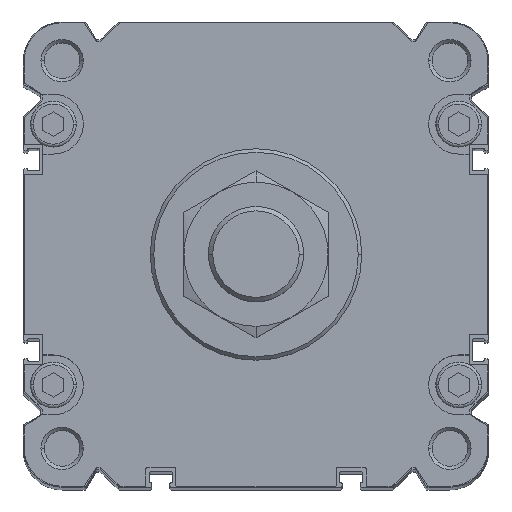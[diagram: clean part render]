
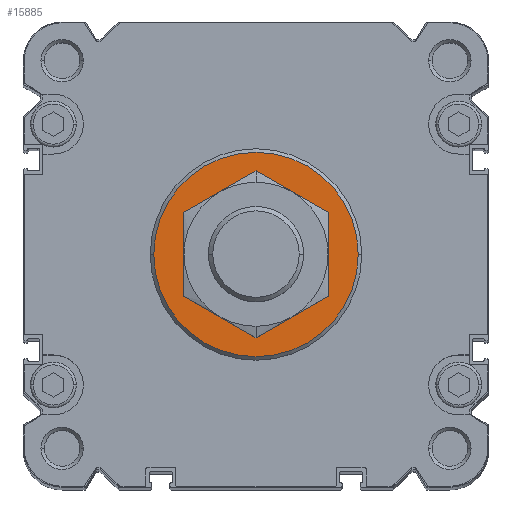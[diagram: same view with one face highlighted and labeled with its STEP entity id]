
A CAD part, top view. The second image highlights one B-rep face of the part: STEP entity #15885.
In plain terms, the highlighted planar face has unit normal (0, 0, 1).
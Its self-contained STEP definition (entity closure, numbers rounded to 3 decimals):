
#406 = CARTESIAN_POINT ( 'NONE',  ( 0., 0., 4. ) ) ;
#419 = EDGE_LOOP ( 'NONE', ( #22448, #11203 ) ) ;
#451 = CIRCLE ( 'NONE', #14186, 29. ) ;
#555 = DIRECTION ( 'NONE',  ( 1., 0., 0. ) ) ;
#822 = AXIS2_PLACEMENT_3D ( 'NONE', #13499, #4217, #15139 ) ;
#1083 = FACE_OUTER_BOUND ( 'NONE', #419, .T. ) ;
#1273 = AXIS2_PLACEMENT_3D ( 'NONE', #20577, #18507, #9588 ) ;
#3083 = CARTESIAN_POINT ( 'NONE',  ( -29., 0., 4. ) ) ;
#3401 = VERTEX_POINT ( 'NONE', #20074 ) ;
#4217 = DIRECTION ( 'NONE',  ( 0., 0., 1. ) ) ;
#5624 = CARTESIAN_POINT ( 'NONE',  ( -16., 0., 4. ) ) ;
#6425 = PLANE ( 'NONE',  #822 ) ;
#6678 = ORIENTED_EDGE ( 'NONE', *, *, #18080, .T. ) ;
#6862 = CIRCLE ( 'NONE', #1273, 29. ) ;
#6883 = CARTESIAN_POINT ( 'NONE',  ( 16., 0., 4. ) ) ;
#8813 = AXIS2_PLACEMENT_3D ( 'NONE', #16463, #13433, #555 ) ;
#9123 = VERTEX_POINT ( 'NONE', #6883 ) ;
#9588 = DIRECTION ( 'NONE',  ( 1., 0., 0. ) ) ;
#9686 = EDGE_CURVE ( 'NONE', #3401, #15592, #6862, .T. ) ;
#9877 = VERTEX_POINT ( 'NONE', #5624 ) ;
#11203 = ORIENTED_EDGE ( 'NONE', *, *, #15779, .F. ) ;
#12311 = EDGE_LOOP ( 'NONE', ( #6678, #21052 ) ) ;
#12392 = EDGE_CURVE ( 'NONE', #9877, #9123, #18796, .T. ) ;
#13433 = DIRECTION ( 'NONE',  ( 0., 0., -1. ) ) ;
#13499 = CARTESIAN_POINT ( 'NONE',  ( 0., -29., 4. ) ) ;
#14186 = AXIS2_PLACEMENT_3D ( 'NONE', #406, #16532, #14230 ) ;
#14230 = DIRECTION ( 'NONE',  ( 1., 0., 0. ) ) ;
#14755 = CIRCLE ( 'NONE', #18819, 16. ) ;
#15139 = DIRECTION ( 'NONE',  ( -1., 0., 0. ) ) ;
#15592 = VERTEX_POINT ( 'NONE', #3083 ) ;
#15779 = EDGE_CURVE ( 'NONE', #15592, #3401, #451, .T. ) ;
#15885 = ADVANCED_FACE ( 'NONE', ( #1083, #18373 ), #6425, .T. ) ;
#16463 = CARTESIAN_POINT ( 'NONE',  ( 0., 0., 4. ) ) ;
#16532 = DIRECTION ( 'NONE',  ( 0., 0., -1. ) ) ;
#18080 = EDGE_CURVE ( 'NONE', #9123, #9877, #14755, .T. ) ;
#18373 = FACE_BOUND ( 'NONE', #12311, .T. ) ;
#18507 = DIRECTION ( 'NONE',  ( 0., 0., -1. ) ) ;
#18796 = CIRCLE ( 'NONE', #8813, 16. ) ;
#18819 = AXIS2_PLACEMENT_3D ( 'NONE', #22389, #20881, #22274 ) ;
#20074 = CARTESIAN_POINT ( 'NONE',  ( 29., 0., 4. ) ) ;
#20577 = CARTESIAN_POINT ( 'NONE',  ( 0., 0., 4. ) ) ;
#20881 = DIRECTION ( 'NONE',  ( 0., 0., -1. ) ) ;
#21052 = ORIENTED_EDGE ( 'NONE', *, *, #12392, .T. ) ;
#22274 = DIRECTION ( 'NONE',  ( 1., 0., 0. ) ) ;
#22389 = CARTESIAN_POINT ( 'NONE',  ( 0., 0., 4. ) ) ;
#22448 = ORIENTED_EDGE ( 'NONE', *, *, #9686, .F. ) ;
